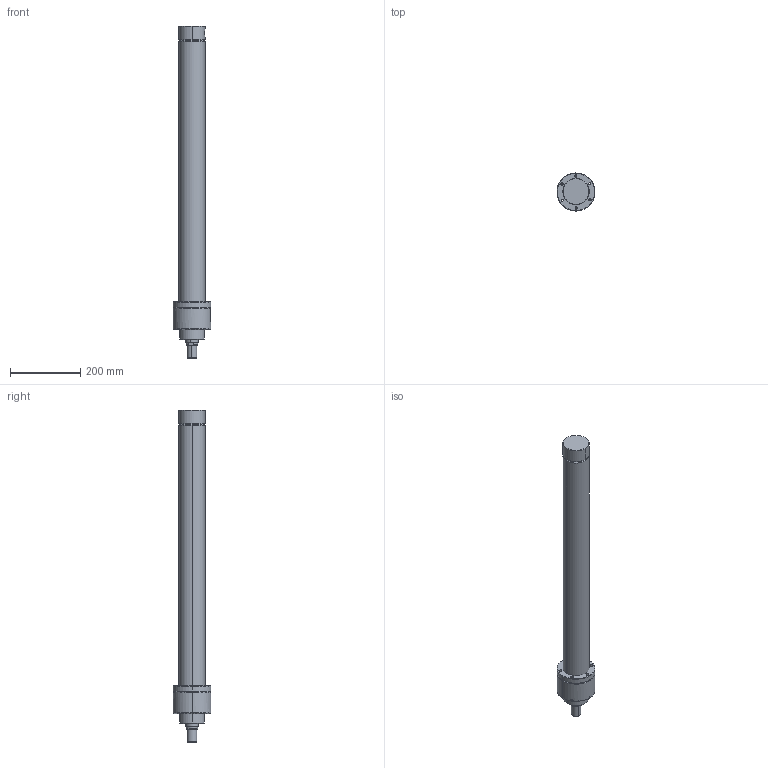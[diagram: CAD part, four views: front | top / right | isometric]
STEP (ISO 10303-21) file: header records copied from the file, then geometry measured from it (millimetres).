
FILE_DESCRIPTION (( 'STEP AP214' ), '1' );
FILE_NAME ('63-35-700-WEB.STEP', '2021-01-13T12:25:20', ( 'cagdas' ), ( '' ), 'SwSTEP 2.0', 'SolidWorks 2021', '' );
FILE_SCHEMA (( 'AUTOMOTIVE_DESIGN' ));
Length unit declared in the file: millimetre
Products named in the file (6): 63x75_BORU_WEB; 63_36_CETOP_烰_KAPAK; 63_Gerdirme _Flansý; 63-35-700-WEB; 35_K_MIL_WEB; TYAK_63_75
Assembly tree (5 placements, depth 2):
  63-35-700-WEB
    63x75_BORU_WEB
    TYAK_63_75
    63_36_CETOP_烰_KAPAK
    63_Gerdirme _Flansý
    35_K_MIL_WEB
Bounding box: 107.99 x 107.99 x 944 mm (x, y, z)
Volume: 1994106.5 mm3; surface area: 472597.6 mm2
Topology: 5 solids, 5 shells, 377 faces, 925 edges, 590 vertices
Faces by surface type: plane 120, cylinder 102, bspline 87, cone 64, torus 4
Entity records: 17240 total; most frequent: CARTESIAN_POINT 8406, ORIENTED_EDGE 1850, DIRECTION 1528, EDGE_CURVE 925, VERTEX_POINT 590, AXIS2_PLACEMENT_3D 575, EDGE_LOOP 443, LINE 378
